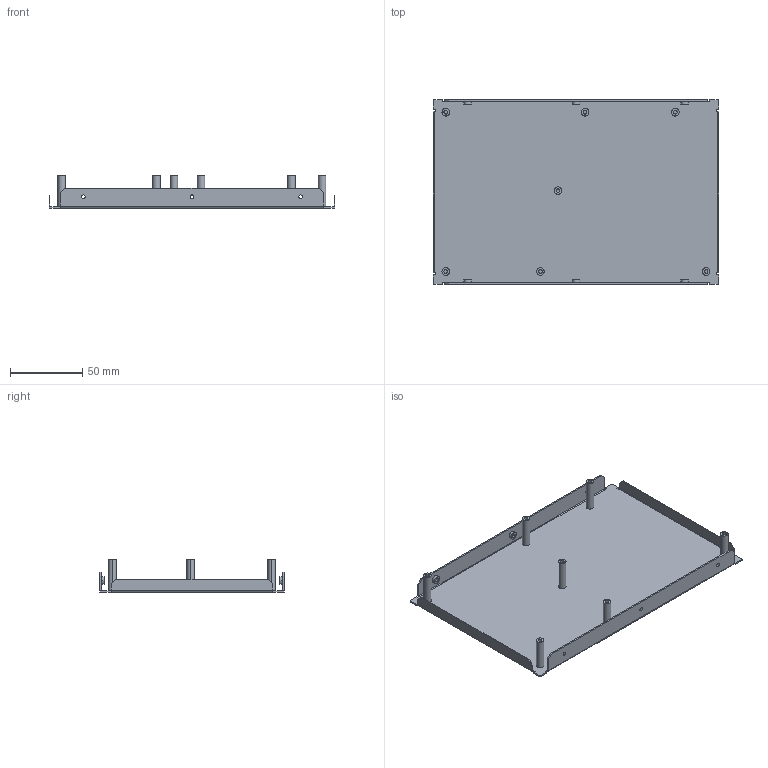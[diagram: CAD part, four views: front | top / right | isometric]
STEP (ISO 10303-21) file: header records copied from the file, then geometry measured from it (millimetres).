
FILE_DESCRIPTION((''),'2;1');
FILE_NAME('GCN400A_X1_BOTCOVER','2025-11-03T15:55:40',('Administrator'),(''),'CREO PARAMETRIC BY PTC INC, 2020033','CREO PARAMETRIC BY PTC INC, 2020033','');
FILE_SCHEMA(('CONFIG_CONTROL_DESIGN'));
Length unit declared in the file: millimetre
Products named in the file (1): GCN400A_X1_BOTCOVER
Bounding box: 197.4 x 127.4 x 22.5 mm (x, y, z)
Volume: 33083.7 mm3; surface area: 67329.9 mm2
Topology: 1 solids, 1 shells, 138 faces, 336 edges, 220 vertices
Faces by surface type: plane 74, cylinder 64
Entity records: 4134 total; most frequent: DIRECTION 740, CARTESIAN_POINT 694, ORIENTED_EDGE 672, EDGE_CURVE 336, AXIS2_PLACEMENT_3D 266, VERTEX_POINT 220, VECTOR 208, LINE 208
